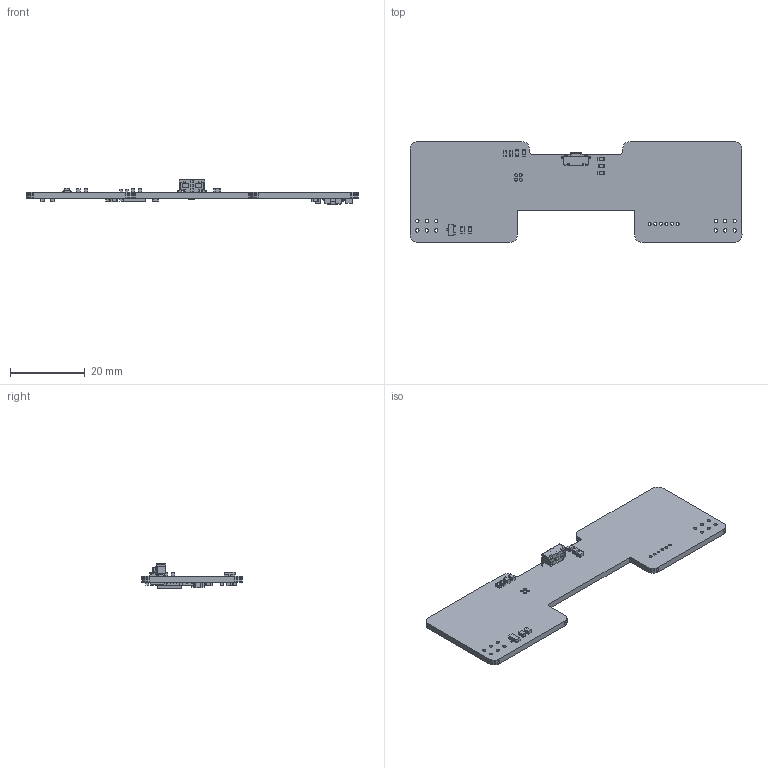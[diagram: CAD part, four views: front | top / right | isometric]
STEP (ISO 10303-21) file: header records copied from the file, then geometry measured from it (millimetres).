
FILE_DESCRIPTION(('Open CASCADE Model'),'2;1');
FILE_NAME('Open CASCADE Shape Model','2019-02-14T14:10:35',('Author'),( 'Open CASCADE'),'Open CASCADE STEP processor 6.5','Open CASCADE 6.5' ,'Unknown');
FILE_SCHEMA(('AUTOMOTIVE_DESIGN { 1 0 10303 214 1 1 1 1 }'));
Length unit declared in the file: millimetre
Products named in the file (61): PCB; Board; SW1; TL3330AFxxxQG; R3; 533787024; Extruded; 533787280; R11; R2; C15; C14; 662693104; 199076384; C2; Q1; SW3DPS-SOT-23-DEFAULT; C1; R1; LED1; APA1606; C3; User_Library-Chip_Capacitor_0603; C4; C5; C6; C7; C8; C9; C10; C11; C12; C13; C26; 533786896; 533786768; C27; L1; L2; L3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
Assembly tree (116 placements, depth 4):
  PCB
    Board
    SW1
      TL3330AFxxxQG
    R3
      533787024  x2
        Extruded
      533787280
        Extruded
    R11
      533787024  x2
        Extruded
      533787280
        Extruded
    R2
      533787024  x2
        Extruded
      533787280
        Extruded
    C15
      533787024  x2
        Extruded
      533787280
        Extruded
    C14
      662693104  x2
        Extruded
      199076384
        Extruded
    C2
      662693104  x2
        Extruded
      199076384
        Extruded
    Q1
      SW3DPS-SOT-23-DEFAULT
    C1
      533787024  x2
        Extruded
      533787280
        Extruded
    R1
      533787024  x2
        Extruded
      533787280
        Extruded
    LED1
      APA1606
    C3
      User_Library-Chip_Capacitor_0603
    C4
      User_Library-Chip_Capacitor_0603
    C5
      User_Library-Chip_Capacitor_0603
    C6
      User_Library-Chip_Capacitor_0603
    C7
      User_Library-Chip_Capacitor_0603
    C8
      User_Library-Chip_Capacitor_0603
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Bounding box: 89.02 x 27.02 x 6.69 mm (x, y, z)
Volume: 3420.3 mm3; surface area: 5317.9 mm2
Topology: 74 solids, 75 shells, 1962 faces, 4847 edges, 2980 vertices
Faces by surface type: plane 1284, cylinder 430, sphere 124, bspline 124
Full cylindrical faces by diameter (mm): 0.8 x10, 0.9 x12
Entity records: 102836 total; most frequent: CARTESIAN_POINT 30720, DIRECTION 11229, LINE 7601, VECTOR 7601, ORIENTED_EDGE 6790, PCURVE 6790, DEFINITIONAL_REPRESENTATION 6790, EDGE_CURVE 3395
